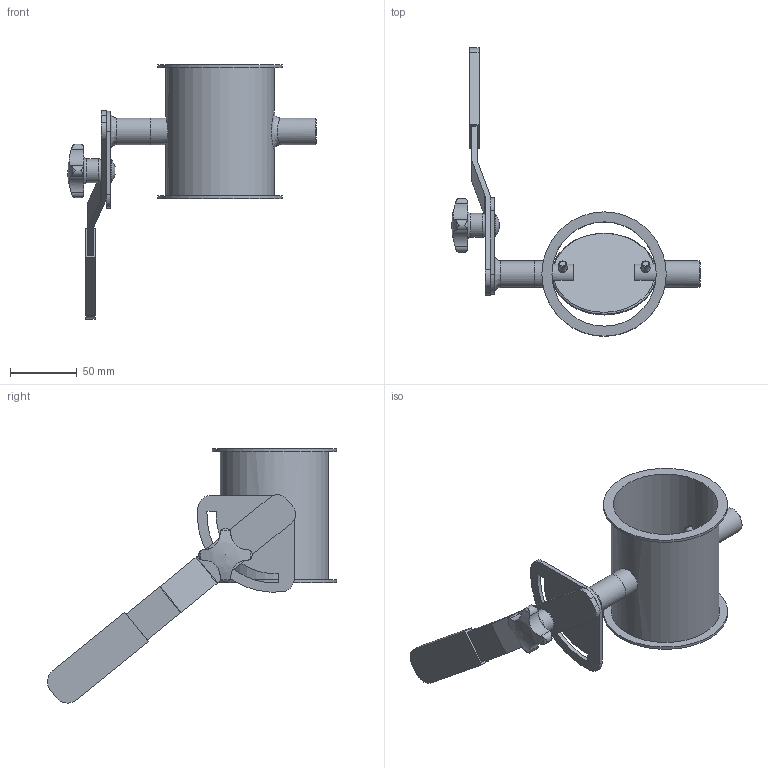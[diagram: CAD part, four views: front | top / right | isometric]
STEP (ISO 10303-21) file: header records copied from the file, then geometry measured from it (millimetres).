
FILE_DESCRIPTION((''),'2;1');
FILE_NAME('U:\Wolfgang\Marcel-3D\fertig\Kapitel 8\0811075.stp','2011-05-03T15:14:01',('TK1'),(''),'Autodesk Inventor 2010','Autodesk Inventor 2010','');
FILE_SCHEMA(('AUTOMOTIVE_DESIGN { 1 0 10303 214 1 1 1 1 }'));
Length unit declared in the file: millimetre
Products named in the file (9): 0811075; Bolzen D15; Griff D15; Umstellsegment D15; DIN 6912 M6 x 16; ganter_din_6335-ku-40-m8-k; Scheibe80; DIN 603 M6 x 25; 0811075-1
Assembly tree (9 placements, depth 2):
  0811075
    Bolzen D15
    Griff D15
    Umstellsegment D15
    DIN 6912 M6 x 16  x2
    ganter_din_6335-ku-40-m8-k
    Scheibe80
    DIN 603 M6 x 25
    0811075-1
Bounding box: 186 x 216.15 x 190.1 mm (x, y, z)
Volume: 140878.3 mm3; surface area: 109451.1 mm2
Topology: 9 solids, 9 shells, 164 faces, 399 edges, 264 vertices
Faces by surface type: plane 75, cylinder 54, cone 16, torus 9, bspline 8, sphere 2
Full cylindrical faces by diameter (mm): 3 x2, 6 x7, 6.4 x1, 7 x1, 10 x4, 13 x1, 14 x2, 15 x4, 16.55 x1, 18 x1, 20 x3, 78 x2, 81 x1, 93 x2
Entity records: 5297 total; most frequent: CARTESIAN_POINT 1816, DIRECTION 686, ORIENTED_EDGE 592, EDGE_CURVE 296, AXIS2_PLACEMENT_3D 290, EDGE_LOOP 229, VERTEX_POINT 221, FACE_OUTER_BOUND 149
